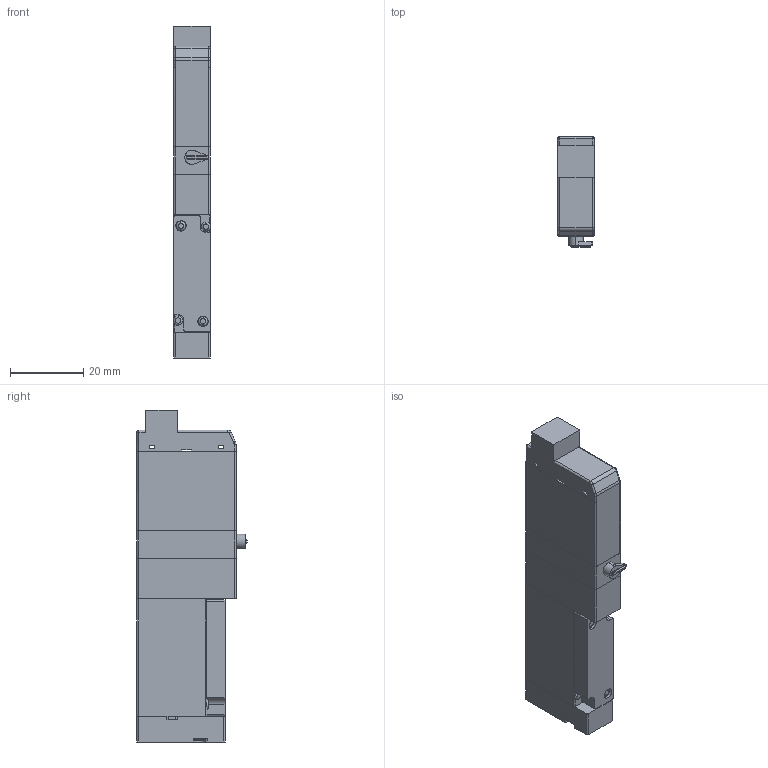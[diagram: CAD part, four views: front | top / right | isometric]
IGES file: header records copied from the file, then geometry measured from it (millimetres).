
Start section: ------------------------------------------------------------------------
Global section: file name: D:\ICADMX\tmp\trans3d_spg\CVICAD02.18204.F10T0-R-A1-PN_8425.igs; native system: spGate; preprocessor: ver12.6.6; author: Unknown; organization: Unknown; date: 200901.142341; units: millimetre
Bounding box: 10.2 x 30 x 90.5 mm (x, y, z)
Volume: 21771.1 mm3; surface area: 10001.8 mm2
Topology: 6 solids, 6 shells, 215 faces, 530 edges, 338 vertices
Faces by surface type: bspline 215
